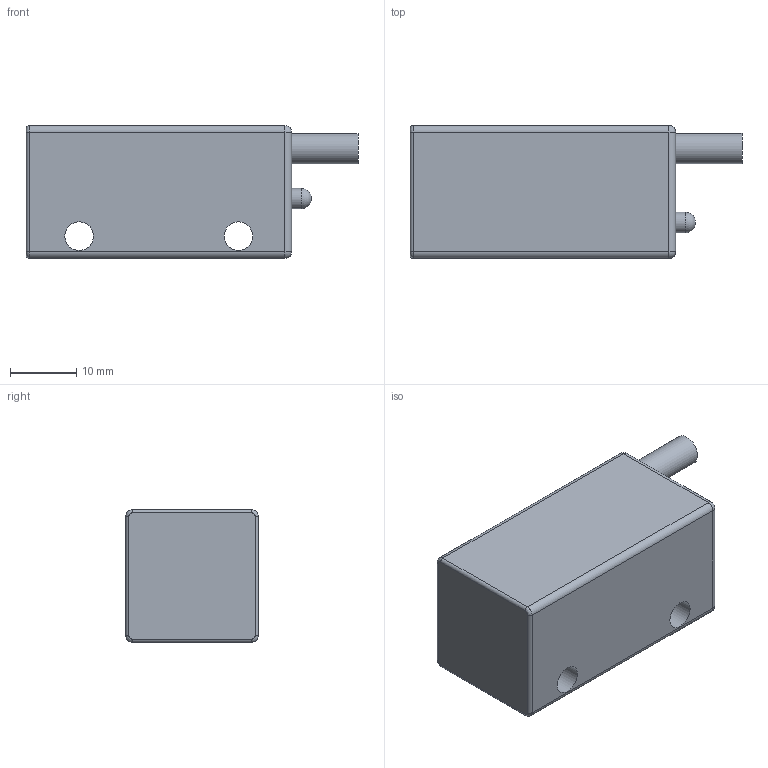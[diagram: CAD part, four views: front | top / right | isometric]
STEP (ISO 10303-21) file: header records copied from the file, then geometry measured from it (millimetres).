
FILE_DESCRIPTION(/* description */ (''),/* implementation_level */ '2;1');
FILE_NAME(/* name */ 'HNSC-B Gehuse vergossen.step',/* time_stamp */ '2024-10-08T15:02:14+02:00',/* author */ (''),/* organization */ (''),/* preprocessor_version */ 'ST-DEVELOPER v20',/* originating_system */ 'Autodesk Translation Framework v13.20.0.188',/* authorisation */ '');
FILE_SCHEMA (('AUTOMOTIVE_DESIGN { 1 0 10303 214 3 1 1 }'));
Length unit declared in the file: millimetre
Products named in the file (2): HNSC-B altes Layout Only Überarbeitung; HNSC-B/Cw z=20
Assembly tree (1 placements, depth 2):
  HNSC-B altes Layout Only Überarbeitung
    HNSC-B/Cw z=20
Bounding box: 50 x 20 x 20 mm (x, y, z)
Volume: 15545.5 mm3; surface area: 4525.5 mm2
Topology: 1 solids, 1 shells, 32 faces, 67 edges, 38 vertices
Faces by surface type: cylinder 16, plane 7, sphere 5, bspline 4
Full cylindrical faces by diameter (mm): 3.1 x1, 4.3 x2, 4.55 x1
Entity records: 921 total; most frequent: CARTESIAN_POINT 171, DIRECTION 166, ORIENTED_EDGE 132, AXIS2_PLACEMENT_3D 69, EDGE_CURVE 66, EDGE_LOOP 38, CIRCLE 38, VERTEX_POINT 38
